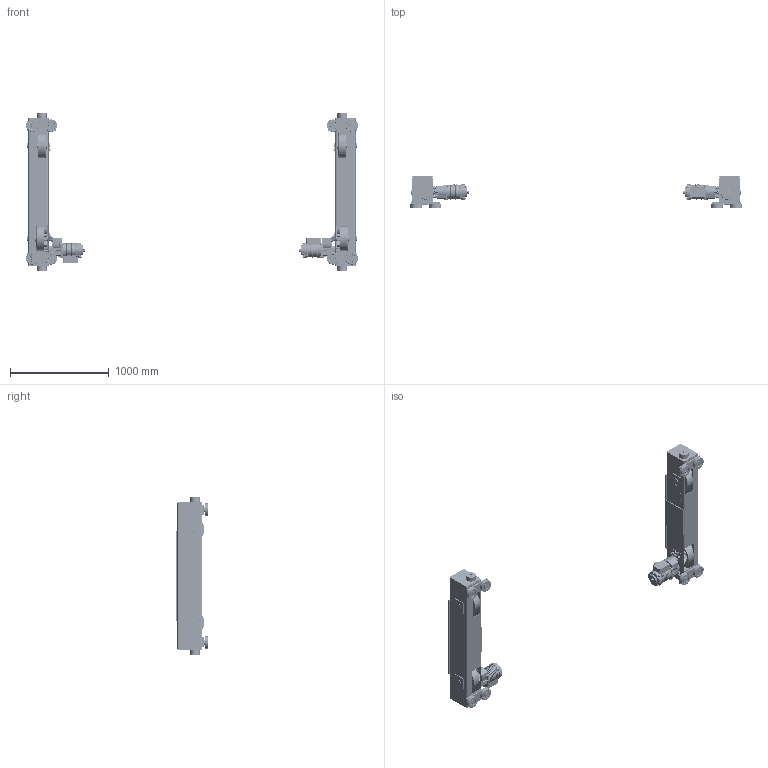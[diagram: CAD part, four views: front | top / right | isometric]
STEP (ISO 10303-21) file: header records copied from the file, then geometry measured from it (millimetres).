
FILE_DESCRIPTION (( 'STEP AP214' ), '1' );
FILE_NAME ('TMS-3-1035.STEP', '2026-08-12T20:05:16', ( '' ), ( '' ), 'SwSTEP 2.0', 'SolidWorks 2026', '' );
FILE_SCHEMA (( 'AUTOMOTIVE_DESIGN' ));
Length unit declared in the file: inch
Products named in the file (71): N6QO375E9108; 6244516; TMS-3-1035; G1JE075S9609; 9091281_B18.3.1M - 8 x 1.25 x 65 Hex SHCS -- 65CHX; 9091250_9091250; N6QO5751102; 9000710; 9091272_9091272; N6QO575E91341; 9093350_9093350; G1JM075S_NORMAL; 9000608; T1000-800-004_58.4375; 6244513; 62587; N6QO575E91013; N6QO375207; 6244504; 6244510; G1JE075S9301; G1JE075S9401; 6244521; 6244512; G1JE040S9503; MS116050; 9093329_9093329; 9047280_9047280; N6QO575E9102; G1JM075S_ROTATED180 DEGREES; 9091295_9091295; N6QO3751108; G1JE075S9603; 62588; G1JE075S9610; 6244515X_6244515D; 9093327_9093327; 62441_6244101; N6QO375120; 62440_6244001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
Assembly tree (280 placements, depth 4):
  TMS-3-1035
    62442_1035 - 40# & 45# RAIL
      62440_6244001
        T1000-800-004_58.4375
        6244512
        6244521
        6244510
        6244510
        6244510
      6244516  x2
      6244507
      6244515X_6244515D  x2
        6244514X_6244514D
        6244522
      MS116050
      6244504
      6244505
      6244506
    62443_1035 - 40# & 45# RAIL
      62441_6244101
        T1000-800-004_58.4375
        6244512
        6244521
        6244510
        6244510
        6244510
      6244516  x2
      6244507
      6244515X_6244515D  x2
        6244514X_6244514D
        6244522
      6244504
      6244505
      6244506
      MS116050
    N6QO3751108  x8
      N6QO375E9108
      9000608
      9047280_9047280
    N6QO375120  x8
    9012711_9012711  x28
    9093327_9093327  x24
    N6QO375207  x4
    9012514_9012514  x4
    9093329_9093329  x4
    6244518  x4
    6244513  x4
    N6QO5751101  x2
      N6QO575E91013
      N6QO575E91341
      N6WO975E91311
      9000710
      9091295_9091295
      9012712_9012712
    N6QO5751102  x2
      N6QO575E9102
      9000710
    G1JM075S_NORMAL
      G1JE075S9303
      G1JE075S9310
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Bounding box: 3364.65 x 321.57 x 1600.36 mm (x, y, z)
Volume: 55000362.9 mm3; surface area: 11317857.3 mm2
Topology: 304 solids, 368 shells, 17060 faces, 43252 edges, 27588 vertices
Faces by surface type: plane 9104, cylinder 3806, bspline 1658, cone 1310, torus 940, sphere 242
Entity records: 171798 total; most frequent: CARTESIAN_POINT 67875, ORIENTED_EDGE 21450, DIRECTION 20282, EDGE_CURVE 10729, AXIS2_PLACEMENT_3D 7705, VERTEX_POINT 6813, LINE 4872, VECTOR 4872
